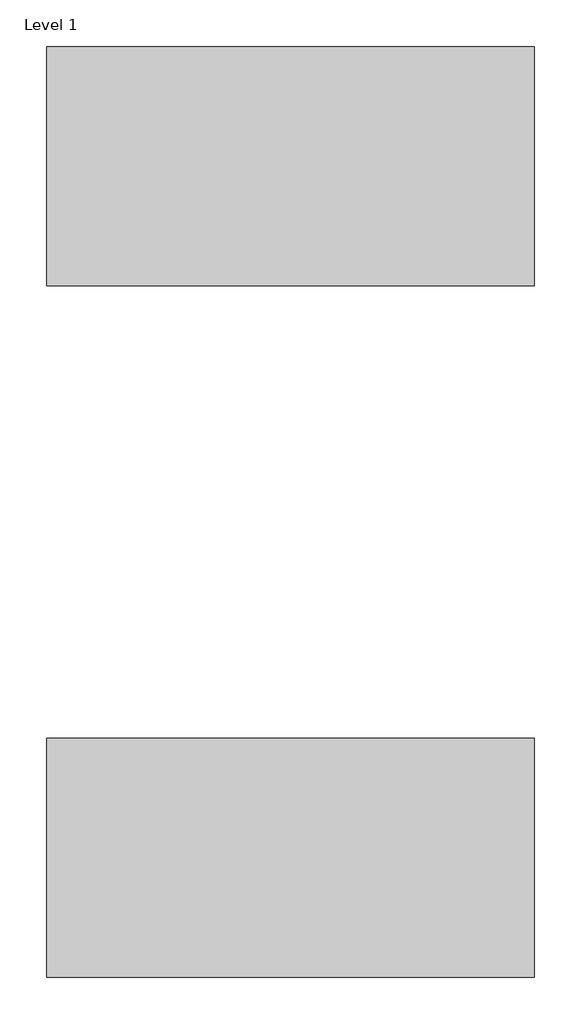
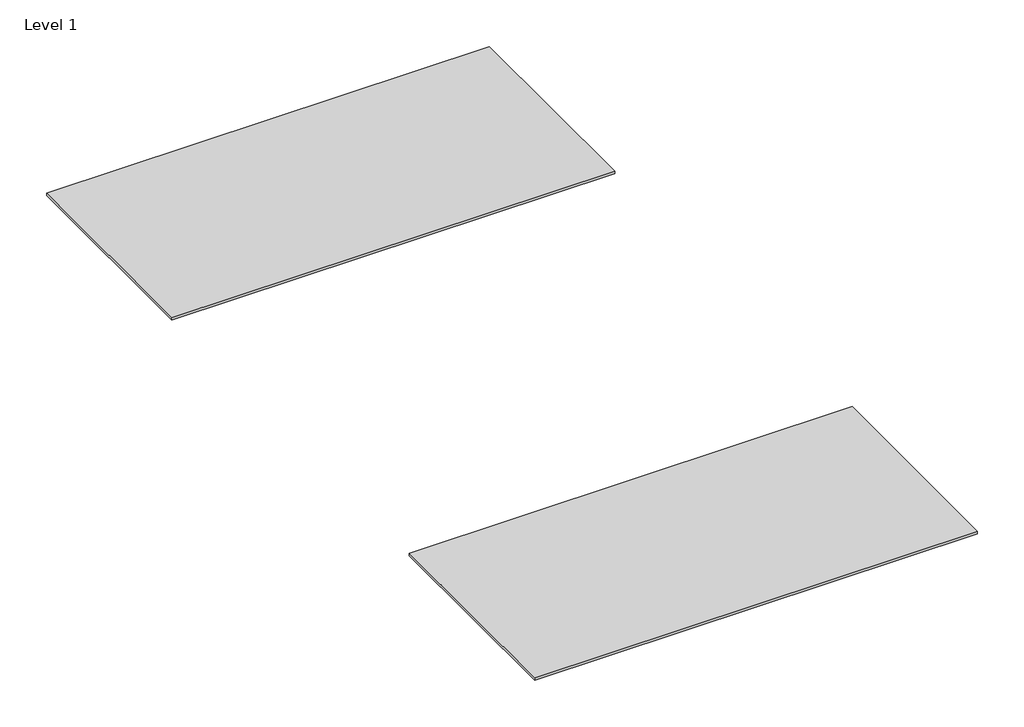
# One storey: 2 furniture elements.
"""IFC4 building model written with IfcOpenShell, lengths in millimetres."""

from ifc_helpers import new_model, si_unit, origin, place, context, project, spatial, transform, mapped, element, save
from components import furniture_22a8cda6

model = new_model("IFC4")

# Units and contexts
model_context = context("Model", 3, world=origin())
ifc_project = project(units=[si_unit("LENGTHUNIT", "METRE", prefix="MILLI")], contexts=[model_context])

# Site, building, storey
site = spatial("IfcSite", under=ifc_project)
building = spatial("IfcBuilding", under=site)
storey = spatial("IfcBuildingStorey", under=building, Name="Level 1", Elevation=0.0)

# Furniture
placement = place(None, origin())
furniture_shape = furniture_22a8cda6(model_context)
element("IfcFurniture", 1, ObjectType="BELENCO_Toledo_3153_152cmx310cm : BELENCO_Toledo_3153_152cm*310cm", at=placement, inside=storey, context=model_context, shape_type="MappedRepresentation", body=[
    mapped(furniture_shape, transform((-1701.0450676, 1163.7754875, 0.0), x_axis=(1.0, 0.0, 0.0), y_axis=(0.0, 1.0, 0.0), z_axis=(0.0, 0.0, 1.0))),
])
element("IfcFurniture", 2, ObjectType="BELENCO_Toledo_3153_152cmx310cm : BELENCO_Toledo_3153_152cm*310cm", at=placement, inside=storey, context=model_context, shape_type="MappedRepresentation", body=[
    mapped(furniture_shape, transform((-1701.0450676, 5563.7754875, 0.0), x_axis=(1.0, 0.0, 0.0), y_axis=(0.0, 1.0, 0.0), z_axis=(0.0, 0.0, 1.0))),
])

save(model, "model.ifc")
